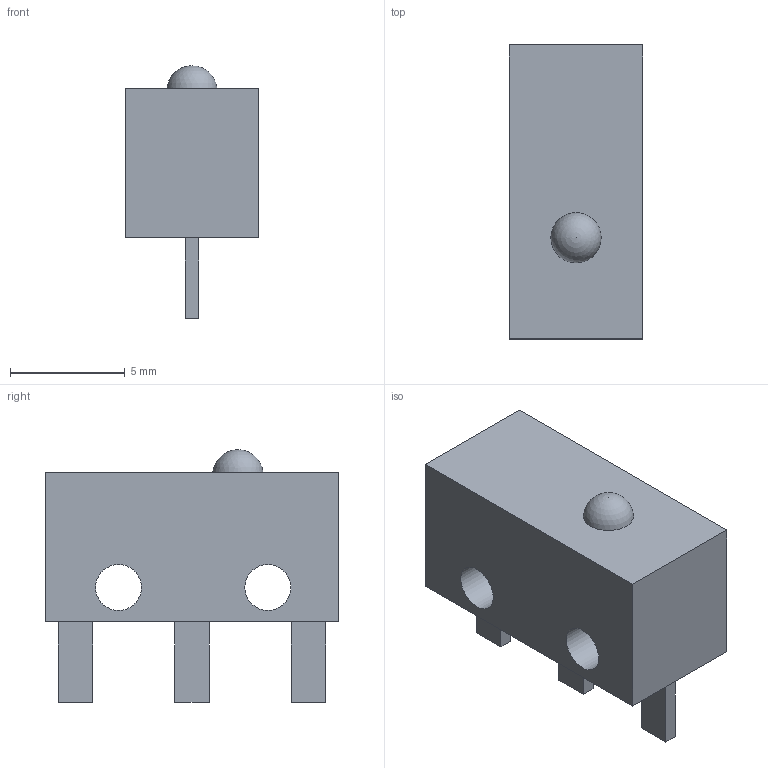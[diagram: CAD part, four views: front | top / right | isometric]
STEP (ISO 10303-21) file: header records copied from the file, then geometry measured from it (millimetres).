
FILE_DESCRIPTION(('Open CASCADE Model'),'2;1');
FILE_NAME('Open CASCADE Shape Model','2026-10-16T20:10:46',('Author'),( 'Open CASCADE'),'Open CASCADE STEP processor 7.9','Open CASCADE 7.9' ,'Unknown');
FILE_SCHEMA(('AUTOMOTIVE_DESIGN { 1 0 10303 214 1 1 1 1 }'));
Length unit declared in the file: millimetre
Products named in the file (1): Open CASCADE STEP translator 7.9 63
Bounding box: 5.8 x 12.8 x 11 mm (x, y, z)
Volume: 458 mm3; surface area: 497.8 mm2
Topology: 1 solids, 1 shells, 24 faces, 57 edges, 38 vertices
Faces by surface type: plane 21, cylinder 2, sphere 1
Full cylindrical faces by diameter (mm): 2 x2
Entity records: 1443 total; most frequent: CARTESIAN_POINT 261, DIRECTION 219, LINE 157, VECTOR 157, ORIENTED_EDGE 112, PCURVE 112, DEFINITIONAL_REPRESENTATION 112, EDGE_CURVE 56
